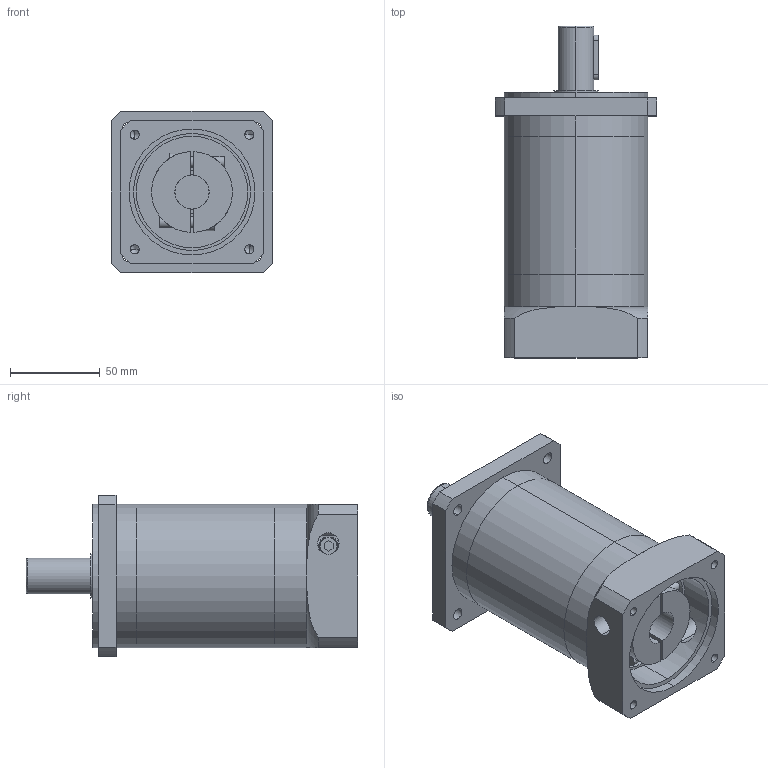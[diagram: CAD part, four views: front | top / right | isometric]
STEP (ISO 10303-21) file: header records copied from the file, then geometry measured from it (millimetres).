
FILE_DESCRIPTION (( 'STEP AP203' ), '1' );
FILE_NAME ('WPF080ﾐﾂ-L2(750W)ﾍ簟ﾎﾍｼ(19-41-70-90-M6).STEP', '2018-04-29T06:44:43', ( 'wanshsin' ), ( 'Microsoft' ), 'SwSTEP 2.0', 'SolidWorks 2014', '' );
FILE_SCHEMA (( 'CONFIG_CONTROL_DESIGN' ));
Length unit declared in the file: millimetre
Products named in the file (1): WPF080ﾐﾂ-L2(750W)ﾍ簟ﾎﾍｼ(19-41-70-90-M6)
Bounding box: 90 x 184.5 x 90 mm (x, y, z)
Volume: 733120.8 mm3; surface area: 97183.4 mm2
Topology: 4 solids, 4 shells, 159 faces, 370 edges, 231 vertices
Faces by surface type: cylinder 76, plane 59, cone 14, torus 10
Entity records: 5197 total; most frequent: CARTESIAN_POINT 1395, DIRECTION 828, ORIENTED_EDGE 720, EDGE_CURVE 360, AXIS2_PLACEMENT_3D 328, VERTEX_POINT 231, EDGE_LOOP 199, VECTOR 172
